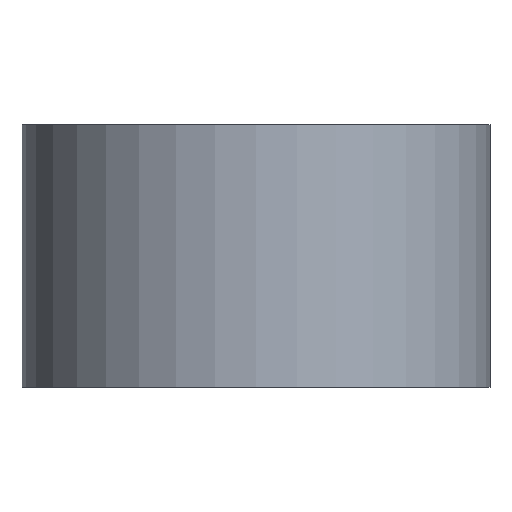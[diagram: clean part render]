
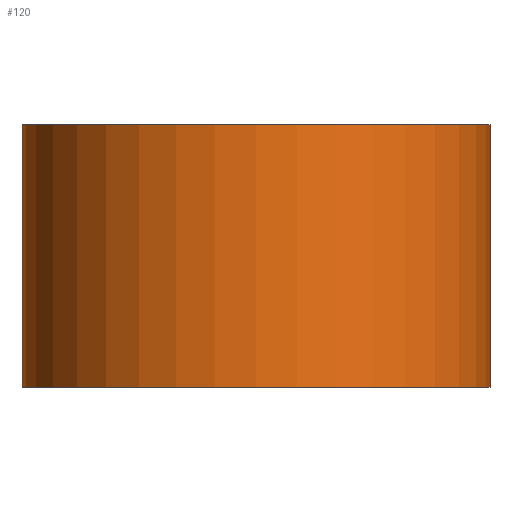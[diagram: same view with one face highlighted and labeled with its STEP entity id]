
A CAD part, front view. The second image highlights one B-rep face of the part: STEP entity #120.
In plain terms, the highlighted cylindrical face has radius 123 mm (diameter 246 mm), a partial arc.
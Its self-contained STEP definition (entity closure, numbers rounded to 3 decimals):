
#64=CARTESIAN_POINT('Axis2P3D Location',(0.,0.,69.)) ;
#69=CARTESIAN_POINT('Line Origine',(123.,0.,69.)) ;
#73=CARTESIAN_POINT('Vertex',(123.,0.,0.)) ;
#75=CARTESIAN_POINT('Vertex',(123.,0.,138.)) ;
#82=CARTESIAN_POINT('Vertex',(-123.,0.,0.)) ;
#85=CARTESIAN_POINT('Line Origine',(-123.,0.,69.)) ;
#89=CARTESIAN_POINT('Vertex',(-123.,0.,138.)) ;
#104=CARTESIAN_POINT('Axis2P3D Location',(0.,0.,0.)) ;
#109=CARTESIAN_POINT('Axis2P3D Location',(0.,0.,138.)) ;
#65=DIRECTION('Axis2P3D Direction',(0.,0.,1.)) ;
#66=DIRECTION('Axis2P3D XDirection',(1.,0.,0.)) ;
#70=DIRECTION('Vector Direction',(0.,0.,1.)) ;
#86=DIRECTION('Vector Direction',(0.,0.,1.)) ;
#105=DIRECTION('Axis2P3D Direction',(0.,0.,1.)) ;
#110=DIRECTION('Axis2P3D Direction',(0.,0.,1.)) ;
#67=AXIS2_PLACEMENT_3D('Cylinder Axis2P3D',#64,#65,#66) ;
#106=AXIS2_PLACEMENT_3D('Circle Axis2P3D',#104,#105,$) ;
#111=AXIS2_PLACEMENT_3D('Circle Axis2P3D',#109,#110,$) ;
#115=ORIENTED_EDGE('',*,*,#91,.F.) ;
#116=ORIENTED_EDGE('',*,*,#108,.T.) ;
#117=ORIENTED_EDGE('',*,*,#77,.T.) ;
#118=ORIENTED_EDGE('',*,*,#113,.F.) ;
#71=VECTOR('Line Direction',#70,1.) ;
#87=VECTOR('Line Direction',#86,1.) ;
#120=ADVANCED_FACE('PartBody',(#119),#68,.T.) ;
#107=CIRCLE('generated circle',#106,123.) ;
#112=CIRCLE('generated circle',#111,123.) ;
#68=CYLINDRICAL_SURFACE('generated cylinder',#67,123.) ;
#77=EDGE_CURVE('',#74,#76,#72,.T.) ;
#91=EDGE_CURVE('',#83,#90,#88,.T.) ;
#108=EDGE_CURVE('',#83,#74,#107,.T.) ;
#113=EDGE_CURVE('',#90,#76,#112,.T.) ;
#114=EDGE_LOOP('',(#115,#116,#117,#118)) ;
#119=FACE_OUTER_BOUND('',#114,.T.) ;
#72=LINE('Line',#69,#71) ;
#88=LINE('Line',#85,#87) ;
#74=VERTEX_POINT('',#73) ;
#76=VERTEX_POINT('',#75) ;
#83=VERTEX_POINT('',#82) ;
#90=VERTEX_POINT('',#89) ;
